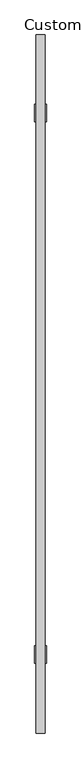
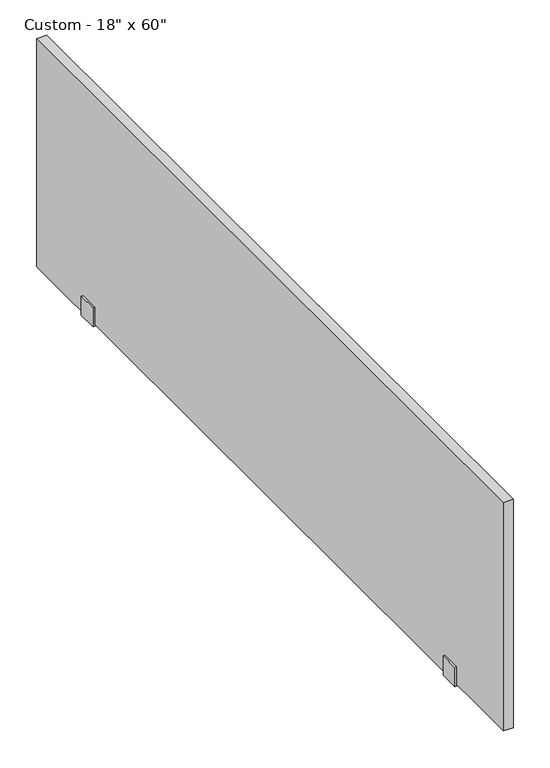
"""IFC4 building model written with IfcOpenShell, lengths in millimetres: proxy geometry."""

from ifc_helpers import new_model, si_unit, frame, origin, place, context, project, spatial, polyline, outline, extrude, source, transform, mapped, element, save


def proxy_7e4ca562(model_context):
    return source(origin(), model_context, "Body", "SweptSolid", [
        extrude(outline(polyline([(38.1, 9.525), (3.175, 9.525), (3.175, -9.525), (38.1, -9.525), (38.1, -12.7), (0.0, -12.7), (0.0, 12.7), (38.1, 12.7), (38.1, 9.525)])), frame((0.0, 1435.1, 0.0), z_axis=(0.0, 1.0, 0.0), x_axis=(0.0, 0.0, 1.0)), (0.0, 0.0, 1.0), 38.1),
        extrude(outline(polyline([(38.1, 9.525), (3.175, 9.525), (3.175, -9.525), (38.1, -9.525), (38.1, -12.7), (0.0, -12.7), (0.0, 12.7), (38.1, 12.7), (38.1, 9.525)])), frame((0.0, 254.0, 0.0), z_axis=(0.0, 1.0, 0.0), x_axis=(0.0, 0.0, 1.0)), (0.0, 0.0, 1.0), 38.1),
        extrude(outline(polyline([(-9.525, 101.6), (-9.525, 1624.7614427), (9.525, 1624.7614427), (9.525, 101.6), (-9.525, 101.6)])), frame((0.0, 0.0, 3.175), z_axis=(0.0, 0.0, 1.0), x_axis=(1.0, 0.0, 0.0)), (0.0, 0.0, 1.0), 454.025),
    ])


if __name__ == "__main__":
    model = new_model("IFC4")
    model_context = context("Model", 3, world=origin())
    ifc_project = project(units=[si_unit("LENGTHUNIT", "METRE", prefix="MILLI")], contexts=[model_context])
    site = spatial("IfcSite", under=ifc_project)
    building = spatial("IfcBuilding", under=site)
    placement = place(None, origin())
    proxy_shape = proxy_7e4ca562(model_context)
    element("IfcBuildingElementProxy", 1, Name="Urinal-Partition_Ironwood-Mfg : Custom - 18\" x 60\"", ObjectType="Urinal-Partition_Ironwood-Mfg : Custom - 18\" x 60\"", at=placement, inside=building, context=model_context, shape_type="MappedRepresentation", body=[
        mapped(proxy_shape, transform((0.0, 0.0, 0.0), x_axis=(1.0, 0.0, 0.0), y_axis=(0.0, 1.0, 0.0), z_axis=(0.0, 0.0, 1.0))),
    ])
    save(model, "model.ifc")
